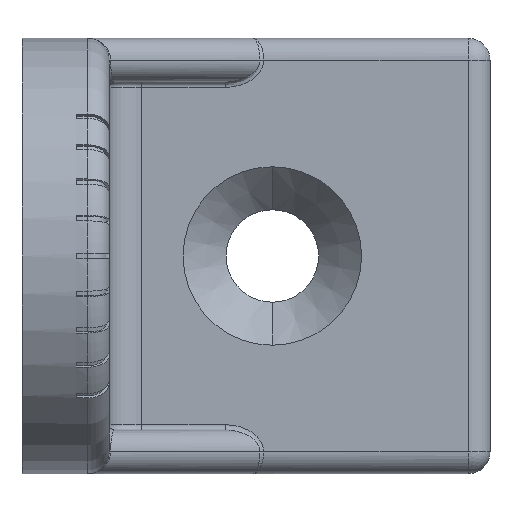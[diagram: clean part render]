
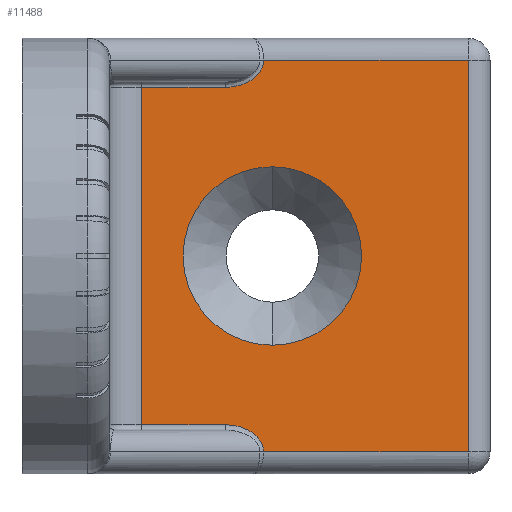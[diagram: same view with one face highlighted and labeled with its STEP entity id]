
A CAD part, left-side view. The second image highlights one B-rep face of the part: STEP entity #11488.
In plain terms, the highlighted planar face has unit normal (-1, 0, 0).
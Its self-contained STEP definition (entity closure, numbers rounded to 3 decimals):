
#877 = CARTESIAN_POINT ( 'NONE',  ( -8., -22.207, 18. ) ) ;
#878 = CARTESIAN_POINT ( 'NONE',  ( -8., -41., 18. ) ) ;
#885 = CARTESIAN_POINT ( 'NONE',  ( -8., -22.207, -18. ) ) ;
#915 = CARTESIAN_POINT ( 'NONE',  ( -8., -41., -18. ) ) ;
#1642 = LINE ( 'NONE', #7659, #3067 ) ;
#2459 = EDGE_LOOP ( 'NONE', ( #10718, #10719, #10720, #10721, #10722, #10723, #10724, #10725 ) ) ;
#2644 = CIRCLE ( 'NONE', #7323, 8.2 ) ;
#3052 = LINE ( 'NONE', #7645, #3060 ) ;
#3056 = CIRCLE ( 'NONE', #9737, 8.2 ) ;
#3058 = LINE ( 'NONE', #7633, #3059 ) ;
#3059 = VECTOR ( 'NONE', #7634, 1000. ) ;
#3060 = VECTOR ( 'NONE', #7648, 1000. ) ;
#3061 = LINE ( 'NONE', #7649, #3063 ) ;
#3062 = LINE ( 'NONE', #7651, #3065 ) ;
#3063 = VECTOR ( 'NONE', #7650, 1000. ) ;
#3064 = LINE ( 'NONE', #7654, #3066 ) ;
#3065 = VECTOR ( 'NONE', #7652, 1000. ) ;
#3066 = VECTOR ( 'NONE', #7658, 1000. ) ;
#3067 = VECTOR ( 'NONE', #7660, 1000. ) ;
#3661 = DIRECTION ( 'NONE',  ( 1., 0., 0. ) ) ;
#3663 = CARTESIAN_POINT ( 'NONE',  ( -8., -43., 20. ) ) ;
#3664 = PLANE ( 'NONE',  #10029 ) ;
#3666 = DIRECTION ( 'NONE',  ( 0., 1., 0. ) ) ;
#5150 = VERTEX_POINT ( 'NONE', #915 ) ;
#5157 = VERTEX_POINT ( 'NONE', #885 ) ;
#5164 = VERTEX_POINT ( 'NONE', #878 ) ;
#5165 = VERTEX_POINT ( 'NONE', #877 ) ;
#5518 = EDGE_CURVE ( 'NONE', #8002, #8041, #2644, .T. ) ;
#5989 = CARTESIAN_POINT ( 'NONE',  ( -8., -23., 8.2 ) ) ;
#6028 = CARTESIAN_POINT ( 'NONE',  ( -8., -23., -8.2 ) ) ;
#6115 = CARTESIAN_POINT ( 'NONE',  ( -8., -18.672, -15.5 ) ) ;
#6119 = CARTESIAN_POINT ( 'NONE',  ( -8., -11., -15.5 ) ) ;
#6121 = CARTESIAN_POINT ( 'NONE',  ( -8., -11., 15.5 ) ) ;
#6131 = CARTESIAN_POINT ( 'NONE',  ( -8., -18.672, 15.5 ) ) ;
#6963 = EDGE_CURVE ( 'NONE', #8041, #8002, #3056, .T. ) ;
#6964 = EDGE_CURVE ( 'NONE', #10505, #10494, #3058, .T. ) ;
#6965 = EDGE_CURVE ( 'NONE', #10494, #5157, #10122, .T. ) ;
#6966 = EDGE_CURVE ( 'NONE', #5157, #5150, #3052, .T. ) ;
#6967 = EDGE_CURVE ( 'NONE', #5150, #5164, #3061, .T. ) ;
#6968 = EDGE_CURVE ( 'NONE', #5164, #5165, #3062, .T. ) ;
#6969 = EDGE_CURVE ( 'NONE', #5165, #10508, #10132, .T. ) ;
#6970 = EDGE_CURVE ( 'NONE', #10508, #10517, #3064, .T. ) ;
#6971 = EDGE_CURVE ( 'NONE', #10517, #10505, #1642, .T. ) ;
#7323 = AXIS2_PLACEMENT_3D ( 'NONE', #10089, #10088, #10087 ) ;
#7633 = CARTESIAN_POINT ( 'NONE',  ( -8., -19.172, -15.5 ) ) ;
#7634 = DIRECTION ( 'NONE',  ( 0., -1., 0. ) ) ;
#7638 = CARTESIAN_POINT ( 'NONE',  ( -8., -20.743, -15.5 ) ) ;
#7639 = CARTESIAN_POINT ( 'NONE',  ( -8., -22.207, 18. ) ) ;
#7640 = CARTESIAN_POINT ( 'NONE',  ( -8., -23., 0. ) ) ;
#7641 = DIRECTION ( 'NONE',  ( 1., 0., 0. ) ) ;
#7642 = DIRECTION ( 'NONE',  ( 0., 1., 0. ) ) ;
#7643 = CARTESIAN_POINT ( 'NONE',  ( -8., -18.672, -15.5 ) ) ;
#7644 = CARTESIAN_POINT ( 'NONE',  ( -8., -22.207, 16.536 ) ) ;
#7645 = CARTESIAN_POINT ( 'NONE',  ( -8., -41., -18. ) ) ;
#7646 = CARTESIAN_POINT ( 'NONE',  ( -8., -22.207, -16.536 ) ) ;
#7647 = CARTESIAN_POINT ( 'NONE',  ( -8., -22.207, -18. ) ) ;
#7648 = DIRECTION ( 'NONE',  ( 0., -1., 0. ) ) ;
#7649 = CARTESIAN_POINT ( 'NONE',  ( -8., -41., 20. ) ) ;
#7650 = DIRECTION ( 'NONE',  ( 0., 0., 1. ) ) ;
#7651 = CARTESIAN_POINT ( 'NONE',  ( -8., -43., 18. ) ) ;
#7652 = DIRECTION ( 'NONE',  ( 0., 1., 0. ) ) ;
#7654 = CARTESIAN_POINT ( 'NONE',  ( -8., -11., 15.5 ) ) ;
#7656 = CARTESIAN_POINT ( 'NONE',  ( -8., -20.743, 15.5 ) ) ;
#7657 = CARTESIAN_POINT ( 'NONE',  ( -8., -18.672, 15.5 ) ) ;
#7658 = DIRECTION ( 'NONE',  ( 0., 1., 0. ) ) ;
#7659 = CARTESIAN_POINT ( 'NONE',  ( -8., -11., -16. ) ) ;
#7660 = DIRECTION ( 'NONE',  ( 0., 0., -1. ) ) ;
#7965 = EDGE_LOOP ( 'NONE', ( #10716, #10717 ) ) ;
#8002 = VERTEX_POINT ( 'NONE', #5989 ) ;
#8041 = VERTEX_POINT ( 'NONE', #6028 ) ;
#9737 = AXIS2_PLACEMENT_3D ( 'NONE', #7640, #7641, #7642 ) ;
#10029 = AXIS2_PLACEMENT_3D ( 'NONE', #3663, #3661, #3666 ) ;
#10087 = DIRECTION ( 'NONE',  ( 0., 1., 0. ) ) ;
#10088 = DIRECTION ( 'NONE',  ( 1., 0., 0. ) ) ;
#10089 = CARTESIAN_POINT ( 'NONE',  ( -8., -23., 0. ) ) ;
#10122 =( BOUNDED_CURVE ( )  B_SPLINE_CURVE ( 3, ( #7643, #7638, #7646, #7647 ),
 .UNSPECIFIED., .F., .T. ) 
 B_SPLINE_CURVE_WITH_KNOTS ( ( 4, 4 ),
 ( 4.712, 6.283 ),
 .UNSPECIFIED. ) 
 CURVE ( )  GEOMETRIC_REPRESENTATION_ITEM ( )  RATIONAL_B_SPLINE_CURVE ( ( 1., 0.805, 0.805, 1. ) ) 
 REPRESENTATION_ITEM ( '' )  );
#10132 =( BOUNDED_CURVE ( )  B_SPLINE_CURVE ( 3, ( #7639, #7644, #7656, #7657 ),
 .UNSPECIFIED., .F., .F. ) 
 B_SPLINE_CURVE_WITH_KNOTS ( ( 4, 4 ),
 ( 3.142, 4.712 ),
 .UNSPECIFIED. ) 
 CURVE ( )  GEOMETRIC_REPRESENTATION_ITEM ( )  RATIONAL_B_SPLINE_CURVE ( ( 1., 0.805, 0.805, 1. ) ) 
 REPRESENTATION_ITEM ( '' )  );
#10296 = FACE_OUTER_BOUND ( 'NONE', #2459, .T. ) ;
#10300 = FACE_BOUND ( 'NONE', #7965, .T. ) ;
#10494 = VERTEX_POINT ( 'NONE', #6115 ) ;
#10505 = VERTEX_POINT ( 'NONE', #6119 ) ;
#10508 = VERTEX_POINT ( 'NONE', #6131 ) ;
#10517 = VERTEX_POINT ( 'NONE', #6121 ) ;
#10716 = ORIENTED_EDGE ( 'NONE', *, *, #5518, .T. ) ;
#10717 = ORIENTED_EDGE ( 'NONE', *, *, #6963, .T. ) ;
#10718 = ORIENTED_EDGE ( 'NONE', *, *, #6964, .T. ) ;
#10719 = ORIENTED_EDGE ( 'NONE', *, *, #6965, .T. ) ;
#10720 = ORIENTED_EDGE ( 'NONE', *, *, #6966, .T. ) ;
#10721 = ORIENTED_EDGE ( 'NONE', *, *, #6967, .T. ) ;
#10722 = ORIENTED_EDGE ( 'NONE', *, *, #6968, .T. ) ;
#10723 = ORIENTED_EDGE ( 'NONE', *, *, #6969, .T. ) ;
#10724 = ORIENTED_EDGE ( 'NONE', *, *, #6970, .T. ) ;
#10725 = ORIENTED_EDGE ( 'NONE', *, *, #6971, .T. ) ;
#11488 = ADVANCED_FACE ( 'NONE', ( #10300, #10296 ), #3664, .F. ) ;
